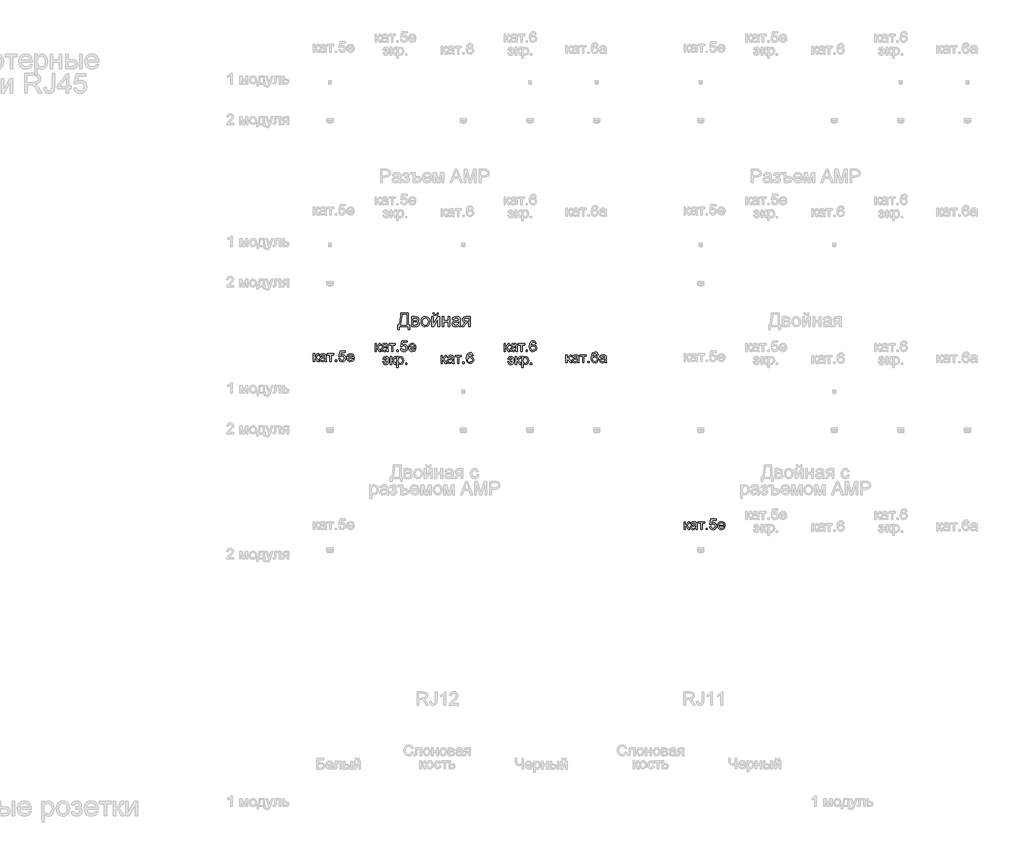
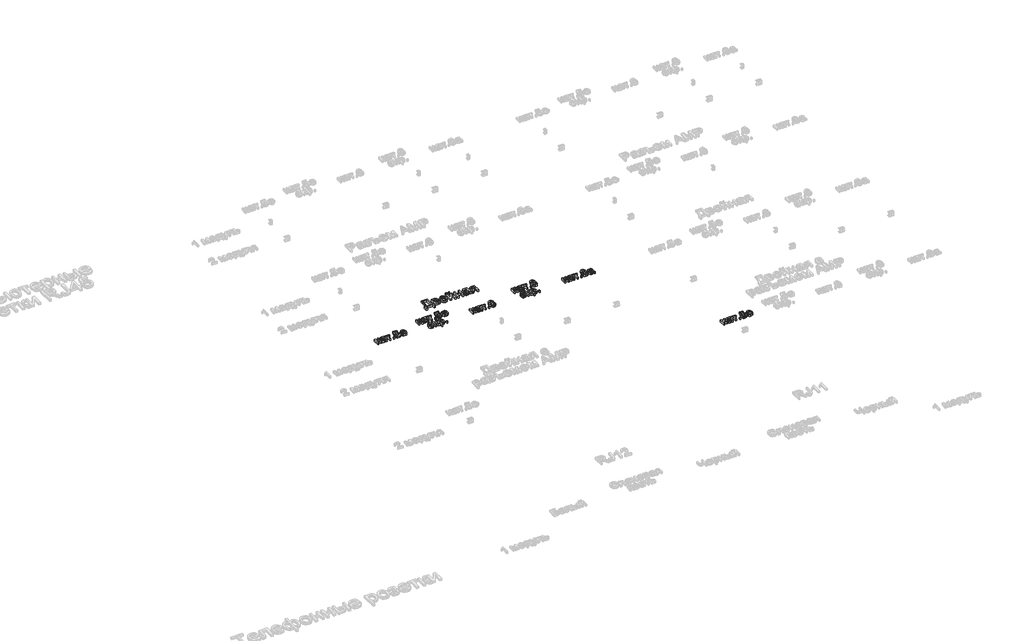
# One storey, part 24 of 47: 7 proxies.
"""IFC4 building model written with IfcOpenShell, lengths in millimetres."""

from ifc_helpers import new_model, si_unit, origin, origin_with_axes, place, context, project, spatial, polyline, outline, extrude, element, save

model = new_model("IFC4")

# Units and contexts
model_context = context("Model", 3, world=origin())
ifc_project = project(units=[si_unit("LENGTHUNIT", "METRE", prefix="MILLI")], contexts=[model_context])

# Site, building, storey
site = spatial("IfcSite", under=ifc_project)
building = spatial("IfcBuilding", under=site)
storey = spatial("IfcBuildingStorey", under=building, Name="Этаж 01", Elevation=0.0)

# Proxies
placement = place(None, origin())
element("IfcBuildingElementProxy", 1, Name="100 мм Arial", ObjectType="100 мм Arial", at=placement, inside=storey, context=model_context, shape_type="SweptSolid", body=[
    extrude(outline(polyline([(534.2901237, -22050.4463281), (593.9360579, -22050.4463281), (593.9360579, -22138.3455994), (603.353837, -22138.3455994), (603.353837, -22174.4470859), (590.7967982, -22174.4470859), (590.7967982, -22150.9026382), (526.4419745, -22150.9026382), (526.4419745, -22174.4470859), (513.8849357, -22174.4470859), (513.8849357, -22138.3455994), (521.733085, -22138.3455994), (531.150864, -22110.9322594), (534.2901237, -22064.9899296), (534.2901237, -22050.4463281)]), holes=[polyline([(581.3790191, -22063.0033668), (546.8471625, -22063.0033668), (546.8471625, -22068.0556129), (544.296514, -22102.4648422), (540.5195922, -22122.348864), (534.2901237, -22138.3455994), (581.3790191, -22138.3455994), (581.3790191, -22063.0033668)])]), origin_with_axes(), (0.0, 0.0, 1.0), 20.0),
    extrude(outline(polyline([(617.4805056, -22077.1300355), (645.1452316, -22077.1300355), (660.3142326, -22078.8100299), (668.8490948, -22084.9659219), (672.4175502, -22095.6958135), (670.2593092, -22104.4146168), (663.7600606, -22110.6318225), (672.196821, -22117.4376394), (675.5568099, -22129.2711769), (673.4292257, -22138.8422401), (668.3708482, -22145.580612), (660.3632835, -22149.5721317), (649.3881373, -22150.9026382), (617.4805056, -22150.9026382), (617.4805056, -22077.1300355)]), holes=[polyline([(630.0375444, -22105.3833727), (642.4474303, -22105.3833727), (652.6868125, -22104.7457106), (657.6654822, -22102.1950621), (659.8605114, -22097.5842744), (656.0100132, -22091.4283823), (642.8398378, -22089.6870742), (630.0375444, -22089.6870742), (630.0375444, -22105.3833727)]), polyline([(630.0375444, -22138.3455994), (645.4395372, -22138.3455994), (659.100222, -22136.0769938), (662.9997711, -22128.2411073), (660.8537928, -22122.1955799), (655.2619865, -22118.6761754), (644.2132639, -22117.9404114), (630.0375444, -22117.9404114), (630.0375444, -22138.3455994)])]), origin_with_axes(), (0.0, 0.0, 1.0), 20.0),
    extrude(outline(polyline([(688.1138487, -22114.0163368), (690.8300441, -22096.2292424), (698.9786302, -22083.7273859), (709.0463342, -22077.6021507), (721.1006009, -22075.5604056), (734.2922361, -22078.0466748), (744.8289896, -22085.5054822), (751.735974, -22097.3482168), (754.0383022, -22112.9862672), (749.9670748, -22135.3289671), (738.1090118, -22147.971845), (721.1006009, -22152.4722681), (707.7495501, -22149.995196), (697.2250594, -22142.5639797), (690.3916513, -22130.4729248), (688.1138487, -22114.0163368)]), holes=[polyline([(700.6708874, -22113.9918114), (702.1240213, -22125.3562993), (706.4834229, -22133.4527689), (713.0439852, -22138.2996142), (721.1006009, -22139.9152293), (729.1204284, -22138.2904171), (735.6687279, -22133.4159807), (740.0281295, -22125.2122122), (741.4812634, -22113.5994039), (740.0189325, -22102.5660097), (735.6319397, -22094.5799048), (729.0744431, -22089.7330595), (721.1006009, -22088.1174444), (713.0439852, -22089.7269281), (706.4834229, -22094.5553793), (702.1240213, -22102.6334548), (700.6708874, -22113.9918114)])]), origin_with_axes(), (0.0, 0.0, 1.0), 20.0),
    extrude(outline(polyline([(768.1649708, -22077.1300355), (780.7220096, -22077.1300355), (780.7220096, -22133.3914552), (811.5750462, -22077.1300355), (827.810905, -22077.1300355), (827.810905, -22150.9026382), (815.2538662, -22150.9026382), (815.2538662, -22094.984575), (784.5970333, -22150.9026382), (768.1649708, -22150.9026382), (768.1649708, -22077.1300355)])), origin_with_axes(), (0.0, 0.0, 1.0), 20.0),
    extrude(outline(polyline([(808.9753468, -22050.4463281), (818.3931259, -22050.4463281), (812.2985475, -22064.4135812), (798.7727528, -22069.2818862), (784.1310494, -22064.4503694), (777.5827499, -22050.4463281), (787.000529, -22050.4463281), (790.5321961, -22057.5219251), (797.6445814, -22059.8641071), (805.4436797, -22057.5955015), (808.9753468, -22050.4463281)])), origin_with_axes(), (0.0, 0.0, 1.0), 20.0),
    extrude(outline(polyline([(846.6464631, -22077.1300355), (859.2035019, -22077.1300355), (859.2035019, -22105.3833727), (892.1657286, -22105.3833727), (892.1657286, -22077.1300355), (904.7227674, -22077.1300355), (904.7227674, -22150.9026382), (892.1657286, -22150.9026382), (892.1657286, -22117.9404114), (859.2035019, -22117.9404114), (859.2035019, -22150.9026382), (846.6464631, -22150.9026382), (846.6464631, -22077.1300355)])), origin_with_axes(), (0.0, 0.0, 1.0), 20.0),
    extrude(outline(polyline([(970.647221, -22141.4848591), (958.4703269, -22149.995196), (945.0181086, -22152.4722681), (934.5242747, -22150.982346), (926.7834244, -22146.5125797), (922.0101555, -22139.7251569), (920.4190659, -22131.2822651), (922.8225616, -22121.3494513), (929.1378692, -22114.1389642), (937.9302488, -22110.0186858), (948.7950304, -22108.1302249), (970.5736446, -22103.8137428), (970.647221, -22101.0178397), (967.1891302, -22091.7472134), (953.3077162, -22088.1174444), (940.6035247, -22090.5332028), (934.5457345, -22099.1048533), (921.9886957, -22097.5352234), (927.4210865, -22085.2724903), (938.3594445, -22078.0865286), (954.926397, -22075.5604056), (970.1444489, -22077.792223), (978.7406248, -22083.3962921), (982.5911231, -22091.9188917), (983.2042597, -22102.9063006), (983.2042597, -22118.5290226), (983.8419218, -22140.344425), (986.3435194, -22150.9026382), (973.7864806, -22150.9026382), (970.647221, -22141.4848591)]), holes=[polyline([(970.647221, -22116.3707816), (950.3891858, -22120.2212798), (939.5857178, -22122.2568935), (934.6928873, -22125.5678315), (932.9761046, -22130.3993484), (936.7162383, -22137.1929025), (947.6913845, -22139.9152293), (960.395576, -22136.9108597), (968.5870818, -22129.6390589), (970.5736446, -22119.9269742), (970.647221, -22116.3707816)])]), origin_with_axes(), (0.0, 0.0, 1.0), 20.0),
    extrude(outline(polyline([(1056.9768625, -22077.1300355), (1056.9768625, -22150.9026382), (1044.4198237, -22150.9026382), (1044.4198237, -22122.649301), (1037.5772186, -22122.649301), (1028.2575414, -22124.2434563), (1019.5019499, -22134.9610851), (1009.4955596, -22150.9026382), (994.9764836, -22150.9026382), (1007.5825733, -22130.7427049), (1018.2756766, -22120.2948562), (1009.6917634, -22117.6645), (1003.6584987, -22112.6674362), (998.9005582, -22098.4426657), (1000.5253703, -22089.8464898), (1005.3998068, -22083.0406728), (1013.3521892, -22078.6076948), (1024.2108394, -22077.1300355), (1056.9768625, -22077.1300355)]), holes=[polyline([(1044.4198237, -22089.6870742), (1027.8651339, -22089.6870742), (1014.4619666, -22092.593342), (1011.4575969, -22099.3991589), (1015.8844436, -22107.5048255), (1031.5684794, -22110.0922622), (1044.4198237, -22110.0922622), (1044.4198237, -22089.6870742)])]), origin_with_axes(), (0.0, 0.0, 1.0), 20.0),
])
element("IfcBuildingElementProxy", 2, Name="80 мм Arial", ObjectType="80 мм Arial", at=placement, inside=storey, context=model_context, shape_type="SweptSolid", body=[
    extrude(outline(polyline([(-119.3935865, -22354.963684), (-109.3479555, -22354.963684), (-109.3479555, -22380.0777615), (-102.6181676, -22378.2726872), (-97.1048427, -22367.7561672), (-92.5234856, -22358.6817447), (-88.4816888, -22355.7288785), (-81.133859, -22354.963684), (-79.2110625, -22354.963684), (-79.2110625, -22365.0681761), (-81.918674, -22365.009315), (-86.8237672, -22366.0688151), (-90.2769529, -22372.6808809), (-94.3285599, -22379.8325069), (-100.0086579, -22383.3347434), (-93.6712774, -22387.2441028), (-87.4516192, -22395.4797544), (-76.6996547, -22413.9817662), (-88.1187119, -22413.9817662), (-98.6548522, -22395.8721618), (-103.9523529, -22388.2104062), (-109.3479555, -22386.3562809), (-109.3479555, -22413.9817662), (-119.3935865, -22413.9817662), (-119.3935865, -22354.963684)])), origin_with_axes(), (0.0, 0.0, 1.0), 20.0),
    extrude(outline(polyline([(-32.750019, -22406.4475429), (-42.4915343, -22413.2558124), (-53.2533089, -22415.2374701), (-67.8410563, -22410.4697194), (-72.9325431, -22398.2854677), (-71.0097465, -22390.3392166), (-65.9575005, -22384.570827), (-58.9235967, -22381.2746043), (-50.2317715, -22379.7638355), (-32.8088802, -22376.3106499), (-32.750019, -22374.0739274), (-35.5164916, -22366.6574263), (-46.6216228, -22363.7536111), (-56.7849761, -22365.6862179), (-61.6312082, -22372.5435383), (-71.6768392, -22371.2878344), (-67.3309266, -22361.4776478), (-58.5802402, -22355.7288785), (-45.3266782, -22353.7079801), (-33.1522367, -22355.4934341), (-26.2752959, -22359.9766893), (-23.1948974, -22366.7947689), (-22.704388, -22375.5846961), (-22.704388, -22388.0828737), (-22.1942583, -22405.5351956), (-20.1929803, -22413.9817662), (-30.2386113, -22413.9817662), (-32.750019, -22406.4475429)]), holes=[polyline([(-32.750019, -22386.3562809), (-48.9564472, -22389.4366795), (-57.5992215, -22391.0651704), (-61.513486, -22393.7139208), (-62.8869121, -22397.5791343), (-59.8948052, -22403.0139776), (-51.1146882, -22405.1918391), (-40.951335, -22402.7883434), (-34.3981304, -22396.9709027), (-32.8088802, -22389.201235), (-32.750019, -22386.3562809)])]), origin_with_axes(), (0.0, 0.0, 1.0), 20.0),
    extrude(outline(polyline([(-13.9144609, -22354.963684), (33.8022864, -22354.963684), (33.8022864, -22365.009315), (14.9667283, -22365.009315), (14.9667283, -22413.9817662), (4.9210973, -22413.9817662), (4.9210973, -22365.009315), (-13.9144609, -22365.009315), (-13.9144609, -22354.963684)])), origin_with_axes(), (0.0, 0.0, 1.0), 20.0),
    extrude(outline(polyline([(45.1036213, -22413.9817662), (45.1036213, -22403.9361352), (55.1492523, -22403.9361352), (55.1492523, -22413.9817662), (45.1036213, -22413.9817662)])), origin_with_axes(), (0.0, 0.0, 1.0), 20.0),
    extrude(outline(polyline([(71.4734027, -22392.6348003), (81.5190338, -22391.3790964), (86.58109, -22401.7288432), (97.0779896, -22405.1918391), (109.6742691, -22400.3750375), (114.1673346, -22387.5923644), (109.9587645, -22375.6631776), (97.2349526, -22371.2878344), (88.4155949, -22373.0340476), (82.7747376, -22377.5663538), (72.7291066, -22376.3106499), (81.5190338, -22334.872422), (120.4458539, -22334.872422), (120.4458539, -22344.918053), (89.6418682, -22344.918053), (85.3450065, -22367.0498338), (100.0406659, -22361.2422034), (109.4265619, -22363.0423726), (117.2183026, -22368.4428803), (122.4642998, -22376.6736268), (124.2129656, -22386.9645125), (122.6384306, -22397.0101435), (117.9148258, -22405.6038669), (108.8698338, -22412.8290693), (97.0387489, -22415.2374701), (87.1721537, -22413.6899131), (79.3117418, -22409.0472424), (73.9234968, -22401.849018), (71.4734027, -22392.6348003)])), origin_with_axes(), (0.0, 0.0, 1.0), 20.0),
    extrude(outline(polyline([(176.8348062, -22396.4019119), (186.6842334, -22397.6576158), (177.4724683, -22410.6266824), (160.314452, -22415.2374701), (148.5275129, -22413.2484548), (139.4579954, -22407.2814088), (133.6748905, -22397.7238346), (131.7471888, -22384.9632344), (133.6945109, -22371.7734386), (139.5364769, -22361.9092961), (148.4833671, -22355.7583091), (159.7454612, -22353.7079801), (170.6568412, -22355.753404), (179.3756445, -22361.8896757), (185.0925307, -22371.7341979), (186.9981594, -22384.9043733), (186.9392983, -22387.6119848), (141.7928198, -22387.6119848), (147.5710197, -22400.6595329), (160.5106558, -22405.1918391), (170.360083, -22403.0924591), (176.8348062, -22396.4019119)]), holes=[polyline([(141.7928198, -22377.5663538), (176.9525284, -22377.5663538), (172.9303519, -22368.4625007), (159.7062205, -22363.7536111), (147.3355752, -22367.5109126), (141.7928198, -22377.5663538)])]), origin_with_axes(), (0.0, 0.0, 1.0), 20.0),
])
element("IfcBuildingElementProxy", 3, Name="80 мм Arial", ObjectType="80 мм Arial", at=placement, inside=storey, context=model_context, shape_type="SweptSolid", body=[
    extrude(outline(polyline([(343.2827356, -22278.8197599), (353.3283666, -22278.8197599), (353.3283666, -22303.9338374), (360.0581546, -22302.1287631), (365.5714794, -22291.6122431), (370.1528365, -22282.5378206), (374.1946334, -22279.5849544), (381.5424631, -22278.8197599), (383.4652597, -22278.8197599), (383.4652597, -22288.924252), (380.7576482, -22288.8653909), (375.8525549, -22289.924891), (372.3993693, -22296.5369568), (368.3477622, -22303.6885828), (362.6676642, -22307.1908193), (369.0050447, -22311.1001787), (375.224703, -22319.3358303), (385.9766674, -22337.8378421), (374.5576103, -22337.8378421), (364.02147, -22319.7282377), (358.7239692, -22312.0664821), (353.3283666, -22310.2123568), (353.3283666, -22337.8378421), (343.2827356, -22337.8378421), (343.2827356, -22278.8197599)])), origin_with_axes(), (0.0, 0.0, 1.0), 20.0),
    extrude(outline(polyline([(429.9263031, -22330.3036188), (420.1847879, -22337.1118883), (409.4230133, -22339.093546), (394.8352659, -22334.3257953), (389.7437791, -22322.1415436), (391.6665756, -22314.1952925), (396.7188217, -22308.4269029), (403.7527254, -22305.1306802), (412.4445507, -22303.6199114), (429.867442, -22300.1667258), (429.9263031, -22297.9300033), (427.1598305, -22290.5135022), (416.0546994, -22287.609687), (405.8913461, -22289.5422938), (401.045114, -22296.3996142), (390.9994829, -22295.1439103), (395.3453956, -22285.3337237), (404.096082, -22279.5849544), (417.349644, -22277.564056), (429.5240855, -22279.34951), (436.4010262, -22283.8327652), (439.4814248, -22290.6508448), (439.9719341, -22299.440772), (439.9719341, -22311.9389496), (440.4820638, -22329.3912715), (442.4833419, -22337.8378421), (432.4377109, -22337.8378421), (429.9263031, -22330.3036188)]), holes=[polyline([(429.9263031, -22310.2123568), (413.719875, -22313.2927554), (405.0771006, -22314.9212463), (401.1628362, -22317.5699967), (399.7894101, -22321.4352102), (402.781517, -22326.8700535), (411.5616339, -22329.047915), (421.7249872, -22326.6444193), (428.2781918, -22320.8269786), (429.867442, -22313.0573109), (429.9263031, -22310.2123568)])]), origin_with_axes(), (0.0, 0.0, 1.0), 20.0),
    extrude(outline(polyline([(448.7618613, -22278.8197599), (496.4786086, -22278.8197599), (496.4786086, -22288.8653909), (477.6430504, -22288.8653909), (477.6430504, -22337.8378421), (467.5974194, -22337.8378421), (467.5974194, -22288.8653909), (448.7618613, -22288.8653909), (448.7618613, -22278.8197599)])), origin_with_axes(), (0.0, 0.0, 1.0), 20.0),
    extrude(outline(polyline([(507.7799435, -22337.8378421), (507.7799435, -22327.7922111), (517.8255745, -22327.7922111), (517.8255745, -22337.8378421), (507.7799435, -22337.8378421)])), origin_with_axes(), (0.0, 0.0, 1.0), 20.0),
    extrude(outline(polyline([(534.1497249, -22316.4908762), (544.1953559, -22315.2351723), (549.2574122, -22325.5849191), (559.7543118, -22329.047915), (572.3505913, -22324.2311134), (576.8436567, -22311.4484403), (572.6350867, -22299.5192535), (559.9112748, -22295.1439103), (551.0919171, -22296.8901235), (545.4510598, -22301.4224297), (535.4054288, -22300.1667258), (544.1953559, -22258.7284978), (583.1221761, -22258.7284978), (583.1221761, -22268.7741289), (552.3181904, -22268.7741289), (548.0213287, -22290.9059097), (562.7169881, -22285.0982793), (572.1028841, -22286.8984485), (579.8946247, -22292.2989562), (585.140622, -22300.5297027), (586.8892877, -22310.8205884), (585.3147528, -22320.8662194), (580.591148, -22329.4599428), (571.546156, -22336.6851452), (559.715071, -22339.093546), (549.8484759, -22337.545989), (541.9880639, -22332.9033183), (536.599819, -22325.7050939), (534.1497249, -22316.4908762)])), origin_with_axes(), (0.0, 0.0, 1.0), 20.0),
    extrude(outline(polyline([(639.5111283, -22320.2579878), (649.3605556, -22321.5136917), (640.1487904, -22334.4827583), (622.9907742, -22339.093546), (611.2038351, -22337.1045306), (602.1343176, -22331.1374847), (596.3512126, -22321.5799105), (594.423511, -22308.8193103), (596.370833, -22295.6295145), (602.2127991, -22285.7653719), (611.1596892, -22279.614385), (622.4217834, -22277.564056), (633.3331634, -22279.6094799), (642.0519666, -22285.7457516), (647.7688528, -22295.5902738), (649.6744816, -22308.7604492), (649.6156205, -22311.4680607), (604.469142, -22311.4680607), (610.2473419, -22324.5156088), (623.1869779, -22329.047915), (633.0364052, -22326.948535), (639.5111283, -22320.2579878)]), holes=[polyline([(604.469142, -22301.4224297), (639.6288506, -22301.4224297), (635.6066741, -22292.3185766), (622.3825426, -22287.609687), (610.0118974, -22291.3669885), (604.469142, -22301.4224297)])]), origin_with_axes(), (0.0, 0.0, 1.0), 20.0),
    extrude(outline(polyline([(418.6249682, -22399.0022839), (437.4605264, -22399.0022839), (432.91841, -22389.0253242), (423.3730985, -22385.1895413), (415.2306437, -22387.700949), (411.090745, -22395.2351723), (401.045114, -22393.9794684), (407.9416751, -22380.4119804), (422.764867, -22375.1439103), (433.0189644, -22377.1942393), (440.8646611, -22383.3452262), (445.8457833, -22393.0867415), (447.5061574, -22405.9086553), (446.1351838, -22418.6717079), (441.3944112, -22428.7075288), (433.6468164, -22435.0350991), (423.2553763, -22436.6734002), (414.3477269, -22435.2043248), (407.3236333, -22430.7970985), (399.7894101, -22415.3264343), (409.8350411, -22414.0707305), (414.1613334, -22423.4885095), (423.0984133, -22426.6277692), (433.0459424, -22422.2328057), (437.4605264, -22409.047915), (418.6249682, -22409.047915), (418.6249682, -22399.0022839)])), origin_with_axes(), (0.0, 0.0, 1.0), 20.0),
    extrude(outline(polyline([(458.8074923, -22376.3996142), (468.8531233, -22376.3996142), (468.8531233, -22401.5136917), (475.5829113, -22399.7086174), (481.0962361, -22389.1920974), (485.6775932, -22380.1176749), (489.7193901, -22377.1648087), (497.0672198, -22376.3996142), (498.9900164, -22376.3996142), (498.9900164, -22386.5041063), (496.2824049, -22386.4452452), (491.3773116, -22387.5047453), (487.9241259, -22394.116811), (483.8725189, -22401.268437), (478.1924209, -22404.7706736), (484.5298014, -22408.680033), (490.7494597, -22416.9156846), (501.5014241, -22435.4176964), (490.082367, -22435.4176964), (479.5462266, -22417.308092), (474.2487259, -22409.6463363), (468.8531233, -22407.7922111), (468.8531233, -22435.4176964), (458.8074923, -22435.4176964), (458.8074923, -22376.3996142)])), origin_with_axes(), (0.0, 0.0, 1.0), 20.0),
    extrude(outline(polyline([(507.7799435, -22458.0203662), (507.7799435, -22376.3996142), (517.8255745, -22376.3996142), (517.8255745, -22386.2490414), (524.7711866, -22377.9201931), (534.1497249, -22375.1439103), (546.883347, -22379.0287441), (555.2023852, -22389.9769123), (558.0080986, -22405.4573867), (554.8394083, -22421.7324861), (545.6374533, -22432.8179969), (532.9332618, -22436.6734002), (524.1923856, -22434.0933212), (517.8255745, -22427.5695471), (517.8255745, -22458.0203662), (507.7799435, -22458.0203662)]), holes=[polyline([(517.8255745, -22406.3795442), (522.1714871, -22421.6834352), (532.7174377, -22426.6277692), (543.4792123, -22421.5068519), (547.9624676, -22405.63397), (543.5871244, -22390.2908383), (533.1294655, -22385.1895413), (522.4657927, -22390.6145744), (517.8255745, -22406.3795442)])]), origin_with_axes(), (0.0, 0.0, 1.0), 20.0),
    extrude(outline(polyline([(571.8208412, -22435.4176964), (571.8208412, -22425.3720654), (581.8664722, -22425.3720654), (581.8664722, -22435.4176964), (571.8208412, -22435.4176964)])), origin_with_axes(), (0.0, 0.0, 1.0), 20.0),
])
element("IfcBuildingElementProxy", 4, Name="80 мм Arial", ObjectType="80 мм Arial", at=placement, inside=storey, context=model_context, shape_type="SweptSolid", body=[
    extrude(outline(polyline([(837.8748928, -22367.654338), (847.9205238, -22367.654338), (847.9205238, -22392.7684155), (854.6503118, -22390.9633412), (860.1636366, -22380.4468212), (864.7449937, -22371.3723987), (868.7867906, -22368.4195325), (876.1346203, -22367.654338), (878.0574169, -22367.654338), (878.0574169, -22377.7588301), (875.3498054, -22377.699969), (870.4447121, -22378.7594692), (866.9915264, -22385.3715349), (862.9399194, -22392.5231609), (857.2598214, -22396.0253975), (863.5972019, -22399.9347568), (869.8168602, -22408.1704084), (880.5688246, -22426.6724202), (869.1497675, -22426.6724202), (858.6136271, -22408.5628159), (853.3161264, -22400.9010602), (847.9205238, -22399.0469349), (847.9205238, -22426.6724202), (837.8748928, -22426.6724202), (837.8748928, -22367.654338)])), origin_with_axes(), (0.0, 0.0, 1.0), 20.0),
    extrude(outline(polyline([(924.5184603, -22419.1381969), (914.7769451, -22425.9464664), (904.0151704, -22427.9281241), (889.4274231, -22423.1603734), (884.3359362, -22410.9761218), (886.2587328, -22403.0298707), (891.3109789, -22397.261481), (898.3448826, -22393.9652583), (907.0367079, -22392.4544896), (924.4595992, -22389.0013039), (924.5184603, -22386.7645814), (921.7519877, -22379.3480804), (910.6468565, -22376.4442651), (900.4835033, -22378.3768719), (895.6372711, -22385.2341923), (885.5916401, -22383.9784884), (889.9375528, -22374.1683019), (898.6882391, -22368.4195325), (911.9418012, -22366.3986341), (924.1162427, -22368.1840881), (930.9931834, -22372.6673433), (934.073582, -22379.485423), (934.5640913, -22388.2753501), (934.5640913, -22400.7735278), (935.074221, -22418.2258496), (937.0754991, -22426.6724202), (927.0298681, -22426.6724202), (924.5184603, -22419.1381969)]), holes=[polyline([(924.5184603, -22399.0469349), (908.3120321, -22402.1273335), (899.6692578, -22403.7558245), (895.7549934, -22406.4045748), (894.3815673, -22410.2697883), (897.3736742, -22415.7046317), (906.1537911, -22417.8824931), (916.3171444, -22415.4789974), (922.870349, -22409.6615568), (924.4595992, -22401.891889), (924.5184603, -22399.0469349)])]), origin_with_axes(), (0.0, 0.0, 1.0), 20.0),
    extrude(outline(polyline([(943.3540185, -22367.654338), (991.0707658, -22367.654338), (991.0707658, -22377.699969), (972.2352076, -22377.699969), (972.2352076, -22426.6724202), (962.1895766, -22426.6724202), (962.1895766, -22377.699969), (943.3540185, -22377.699969), (943.3540185, -22367.654338)])), origin_with_axes(), (0.0, 0.0, 1.0), 20.0),
    extrude(outline(polyline([(1002.3721007, -22426.6724202), (1002.3721007, -22416.6267892), (1012.4177317, -22416.6267892), (1012.4177317, -22426.6724202), (1002.3721007, -22426.6724202)])), origin_with_axes(), (0.0, 0.0, 1.0), 20.0),
    extrude(outline(polyline([(1080.225741, -22367.654338), (1070.18011, -22368.9100419), (1066.3737576, -22360.5321426), (1056.3085063, -22356.3530031), (1047.2438939, -22358.7859294), (1040.3865735, -22367.919213), (1037.5318092, -22385.8228035), (1046.3904077, -22377.8078811), (1057.3680064, -22375.1885613), (1066.6484429, -22376.9789203), (1074.437731, -22382.3499974), (1079.7205164, -22390.5562185), (1081.4814449, -22400.8520092), (1078.1656019, -22414.7138028), (1069.0421284, -22424.5239894), (1055.876858, -22427.9281241), (1044.4798738, -22425.6717812), (1035.4029987, -22418.9027525), (1029.4653833, -22406.9539453), (1027.4861782, -22389.1582669), (1029.68366, -22369.1503914), (1036.2761053, -22355.4700863), (1045.2769515, -22348.5980506), (1056.9363582, -22346.3073721), (1065.7508108, -22347.724944), (1072.80924, -22351.9776599), (1080.225741, -22367.654338)]), holes=[polyline([(1037.5318092, -22400.6950463), (1039.8568234, -22409.3966817), (1046.0372409, -22415.7144418), (1055.0920431, -22417.8824931), (1066.9329383, -22413.3894276), (1071.4358139, -22401.1855556), (1066.9917994, -22389.5016234), (1054.6800153, -22385.2341923), (1042.5251942, -22389.5016234), (1037.5318092, -22400.6950463)])]), origin_with_axes(), (0.0, 0.0, 1.0), 20.0),
])
element("IfcBuildingElementProxy", 5, Name="80 мм Arial", ObjectType="80 мм Arial", at=placement, inside=storey, context=model_context, shape_type="SweptSolid", body=[
    extrude(outline(polyline([(1310.9396889, -22278.8197599), (1320.9853199, -22278.8197599), (1320.9853199, -22303.9338374), (1327.7151079, -22302.1287631), (1333.2284327, -22291.6122431), (1337.8097899, -22282.5378206), (1341.8515867, -22279.5849544), (1349.1994164, -22278.8197599), (1351.122213, -22278.8197599), (1351.122213, -22288.924252), (1348.4146015, -22288.8653909), (1343.5095082, -22289.924891), (1340.0563226, -22296.5369568), (1336.0047155, -22303.6885828), (1330.3246175, -22307.1908193), (1336.661998, -22311.1001787), (1342.8816563, -22319.3358303), (1353.6336207, -22337.8378421), (1342.2145636, -22337.8378421), (1331.6784233, -22319.7282377), (1326.3809225, -22312.0664821), (1320.9853199, -22310.2123568), (1320.9853199, -22337.8378421), (1310.9396889, -22337.8378421), (1310.9396889, -22278.8197599)])), origin_with_axes(), (0.0, 0.0, 1.0), 20.0),
    extrude(outline(polyline([(1397.5832564, -22330.3036188), (1387.8417412, -22337.1118883), (1377.0799666, -22339.093546), (1362.4922192, -22334.3257953), (1357.4007324, -22322.1415436), (1359.3235289, -22314.1952925), (1364.375775, -22308.4269029), (1371.4096787, -22305.1306802), (1380.101504, -22303.6199114), (1397.5243953, -22300.1667258), (1397.5832564, -22297.9300033), (1394.8167838, -22290.5135022), (1383.7116527, -22287.609687), (1373.5482994, -22289.5422938), (1368.7020673, -22296.3996142), (1358.6564362, -22295.1439103), (1363.0023489, -22285.3337237), (1371.7530353, -22279.5849544), (1385.0065973, -22277.564056), (1397.1810388, -22279.34951), (1404.0579795, -22283.8327652), (1407.1383781, -22290.6508448), (1407.6288874, -22299.440772), (1407.6288874, -22311.9389496), (1408.1390171, -22329.3912715), (1410.1402952, -22337.8378421), (1400.0946642, -22337.8378421), (1397.5832564, -22330.3036188)]), holes=[polyline([(1397.5832564, -22310.2123568), (1381.3768283, -22313.2927554), (1372.7340539, -22314.9212463), (1368.8197895, -22317.5699967), (1367.4463634, -22321.4352102), (1370.4384703, -22326.8700535), (1379.2185872, -22329.047915), (1389.3819405, -22326.6444193), (1395.9351451, -22320.8269786), (1397.5243953, -22313.0573109), (1397.5832564, -22310.2123568)])]), origin_with_axes(), (0.0, 0.0, 1.0), 20.0),
    extrude(outline(polyline([(1416.4188146, -22278.8197599), (1464.1355619, -22278.8197599), (1464.1355619, -22288.8653909), (1445.3000037, -22288.8653909), (1445.3000037, -22337.8378421), (1435.2543727, -22337.8378421), (1435.2543727, -22288.8653909), (1416.4188146, -22288.8653909), (1416.4188146, -22278.8197599)])), origin_with_axes(), (0.0, 0.0, 1.0), 20.0),
    extrude(outline(polyline([(1475.4368968, -22337.8378421), (1475.4368968, -22327.7922111), (1485.4825278, -22327.7922111), (1485.4825278, -22337.8378421), (1475.4368968, -22337.8378421)])), origin_with_axes(), (0.0, 0.0, 1.0), 20.0),
    extrude(outline(polyline([(1553.2905372, -22278.8197599), (1543.2449061, -22280.0754638), (1539.4385538, -22271.6975645), (1529.3733024, -22267.518425), (1520.30869, -22269.9513512), (1513.4513696, -22279.0846349), (1510.5966053, -22296.9882253), (1519.4552038, -22288.9733029), (1530.4328025, -22286.3539831), (1539.713239, -22288.1443422), (1547.5025271, -22293.5154193), (1552.7853126, -22301.7216404), (1554.546241, -22312.0174311), (1551.230398, -22325.8792247), (1542.1069245, -22335.6894112), (1528.9416542, -22339.093546), (1517.54467, -22336.8372031), (1508.4677949, -22330.0681744), (1502.5301795, -22318.1193672), (1500.5509743, -22300.3236888), (1502.7484561, -22280.3158133), (1509.3409015, -22266.6355082), (1518.3417476, -22259.7634725), (1530.0011543, -22257.472794), (1538.8156069, -22258.8903659), (1545.8740361, -22263.1430818), (1553.2905372, -22278.8197599)]), holes=[polyline([(1510.5966053, -22311.8604681), (1512.9216196, -22320.5621036), (1519.1020371, -22326.8798637), (1528.1568392, -22329.047915), (1539.9977344, -22324.5548495), (1544.50061, -22312.3509775), (1540.0565955, -22300.6670453), (1527.7448114, -22296.3996142), (1515.5899903, -22300.6670453), (1510.5966053, -22311.8604681)])]), origin_with_axes(), (0.0, 0.0, 1.0), 20.0),
    extrude(outline(polyline([(1355.5171766, -22399.0022839), (1374.3527347, -22399.0022839), (1369.8106183, -22389.0253242), (1360.2653068, -22385.1895413), (1352.122852, -22387.700949), (1347.9829533, -22395.2351723), (1337.9373223, -22393.9794684), (1344.8338834, -22380.4119804), (1359.6570753, -22375.1439103), (1369.9111727, -22377.1942393), (1377.7568694, -22383.3452262), (1382.7379916, -22393.0867415), (1384.3983657, -22405.9086553), (1383.0273922, -22418.6717079), (1378.2866195, -22428.7075288), (1370.5390247, -22435.0350991), (1360.1475846, -22436.6734002), (1351.2399352, -22435.2043248), (1344.2158417, -22430.7970985), (1336.6816184, -22415.3264343), (1346.7272494, -22414.0707305), (1351.0535417, -22423.4885095), (1359.9906216, -22426.6277692), (1369.9381508, -22422.2328057), (1374.3527347, -22409.047915), (1355.5171766, -22409.047915), (1355.5171766, -22399.0022839)])), origin_with_axes(), (0.0, 0.0, 1.0), 20.0),
    extrude(outline(polyline([(1395.6997006, -22376.3996142), (1405.7453316, -22376.3996142), (1405.7453316, -22401.5136917), (1412.4751196, -22399.7086174), (1417.9884444, -22389.1920974), (1422.5698015, -22380.1176749), (1426.6115984, -22377.1648087), (1433.9594281, -22376.3996142), (1435.8822247, -22376.3996142), (1435.8822247, -22386.5041063), (1433.1746132, -22386.4452452), (1428.2695199, -22387.5047453), (1424.8163343, -22394.116811), (1420.7647272, -22401.268437), (1415.0846292, -22404.7706736), (1421.4220097, -22408.680033), (1427.641668, -22416.9156846), (1438.3936324, -22435.4176964), (1426.9745753, -22435.4176964), (1416.438435, -22417.308092), (1411.1409342, -22409.6463363), (1405.7453316, -22407.7922111), (1405.7453316, -22435.4176964), (1395.6997006, -22435.4176964), (1395.6997006, -22376.3996142)])), origin_with_axes(), (0.0, 0.0, 1.0), 20.0),
    extrude(outline(polyline([(1444.6721518, -22458.0203662), (1444.6721518, -22376.3996142), (1454.7177828, -22376.3996142), (1454.7177828, -22386.2490414), (1461.6633949, -22377.9201931), (1471.0419332, -22375.1439103), (1483.7755553, -22379.0287441), (1492.0945935, -22389.9769123), (1494.9003069, -22405.4573867), (1491.7316166, -22421.7324861), (1482.5296617, -22432.8179969), (1469.8254701, -22436.6734002), (1461.0845939, -22434.0933212), (1454.7177828, -22427.5695471), (1454.7177828, -22458.0203662), (1444.6721518, -22458.0203662)]), holes=[polyline([(1454.7177828, -22406.3795442), (1459.0636955, -22421.6834352), (1469.609646, -22426.6277692), (1480.3714206, -22421.5068519), (1484.8546759, -22405.63397), (1480.4793327, -22390.2908383), (1470.0216738, -22385.1895413), (1459.3580011, -22390.6145744), (1454.7177828, -22406.3795442)])]), origin_with_axes(), (0.0, 0.0, 1.0), 20.0),
    extrude(outline(polyline([(1508.7130495, -22435.4176964), (1508.7130495, -22425.3720654), (1518.7586805, -22425.3720654), (1518.7586805, -22435.4176964), (1508.7130495, -22435.4176964)])), origin_with_axes(), (0.0, 0.0, 1.0), 20.0),
])
element("IfcBuildingElementProxy", 6, Name="80 мм Arial", ObjectType="80 мм Arial", at=placement, inside=storey, context=model_context, shape_type="SweptSolid", body=[
    extrude(outline(polyline([(1774.3437127, -22363.42412), (1784.3893437, -22363.42412), (1784.3893437, -22388.5381975), (1791.1191317, -22386.7331232), (1796.6324565, -22376.2166032), (1801.2138137, -22367.1421807), (1805.2556105, -22364.1893145), (1812.6034402, -22363.42412), (1814.5262368, -22363.42412), (1814.5262368, -22373.5286121), (1811.8186253, -22373.469751), (1806.913532, -22374.5292512), (1803.4603464, -22381.1413169), (1799.4087393, -22388.2929429), (1793.7286413, -22391.7951795), (1800.0660218, -22395.7045388), (1806.2856801, -22403.9401904), (1817.0376445, -22422.4422022), (1805.6185874, -22422.4422022), (1795.0824471, -22404.3325979), (1789.7849463, -22396.6708422), (1784.3893437, -22394.8167169), (1784.3893437, -22422.4422022), (1774.3437127, -22422.4422022), (1774.3437127, -22363.42412)])), origin_with_axes(), (0.0, 0.0, 1.0), 20.0),
    extrude(outline(polyline([(1860.9872802, -22414.9079789), (1851.245765, -22421.7162484), (1840.4839904, -22423.6979061), (1825.896243, -22418.9301554), (1820.8047562, -22406.7459037), (1822.7275527, -22398.7996526), (1827.7797988, -22393.031263), (1834.8137026, -22389.7350403), (1843.5055278, -22388.2242716), (1860.9284191, -22384.7710859), (1860.9872802, -22382.5343634), (1858.2208076, -22375.1178623), (1847.1156765, -22372.2140471), (1836.9523232, -22374.1466539), (1832.1060911, -22381.0039743), (1822.0604601, -22379.7482704), (1826.4063727, -22369.9380839), (1835.1570591, -22364.1893145), (1848.4106211, -22362.1684161), (1860.5850626, -22363.9538701), (1867.4620034, -22368.4371253), (1870.5424019, -22375.255205), (1871.0329113, -22384.0451321), (1871.0329113, -22396.5433097), (1871.543041, -22413.9956316), (1873.544319, -22422.4422022), (1863.498688, -22422.4422022), (1860.9872802, -22414.9079789)]), holes=[polyline([(1860.9872802, -22394.8167169), (1844.7808521, -22397.8971155), (1836.1380777, -22399.5256065), (1832.2238133, -22402.1743568), (1830.8503872, -22406.0395703), (1833.8424941, -22411.4744137), (1842.622611, -22413.6522751), (1852.7859643, -22411.2487794), (1859.3391689, -22405.4313387), (1860.9284191, -22397.661671), (1860.9872802, -22394.8167169)])]), origin_with_axes(), (0.0, 0.0, 1.0), 20.0),
    extrude(outline(polyline([(1879.8228384, -22363.42412), (1927.5395857, -22363.42412), (1927.5395857, -22373.469751), (1908.7040276, -22373.469751), (1908.7040276, -22422.4422022), (1898.6583965, -22422.4422022), (1898.6583965, -22373.469751), (1879.8228384, -22373.469751), (1879.8228384, -22363.42412)])), origin_with_axes(), (0.0, 0.0, 1.0), 20.0),
    extrude(outline(polyline([(1938.8409206, -22422.4422022), (1938.8409206, -22412.3965712), (1948.8865516, -22412.3965712), (1948.8865516, -22422.4422022), (1938.8409206, -22422.4422022)])), origin_with_axes(), (0.0, 0.0, 1.0), 20.0),
    extrude(outline(polyline([(2016.694561, -22363.42412), (2006.64893, -22364.6798239), (2002.8425776, -22356.3019246), (1992.7773262, -22352.1227851), (1983.7127138, -22354.5557114), (1976.8553934, -22363.688995), (1974.0006292, -22381.5925855), (1982.8592276, -22373.5776631), (1993.8368263, -22370.9583433), (2003.1172628, -22372.7487023), (2010.9065509, -22378.1197794), (2016.1893364, -22386.3260005), (2017.9502648, -22396.6217912), (2014.6344218, -22410.4835848), (2005.5109483, -22420.2937714), (1992.345678, -22423.6979061), (1980.9486938, -22421.4415632), (1971.8718187, -22414.6725345), (1965.9342033, -22402.7237273), (1963.9549981, -22384.9280489), (1966.1524799, -22364.9201734), (1972.7449253, -22351.2398683), (1981.7457714, -22344.3678326), (1993.4051781, -22342.0771541), (2002.2196307, -22343.494726), (2009.2780599, -22347.7474419), (2016.694561, -22363.42412)]), holes=[polyline([(1974.0006292, -22396.4648283), (1976.3256434, -22405.1664637), (1982.5060609, -22411.4842238), (1991.5608631, -22413.6522751), (2003.4017582, -22409.1592096), (2007.9046338, -22396.9553376), (2003.4606193, -22385.2714054), (1991.1488352, -22381.0039743), (1978.9940141, -22385.2714054), (1974.0006292, -22396.4648283)])]), origin_with_axes(), (0.0, 0.0, 1.0), 20.0),
    extrude(outline(polyline([(2066.922716, -22414.9079789), (2057.1812008, -22421.7162484), (2046.4194262, -22423.6979061), (2031.8316788, -22418.9301554), (2026.740192, -22406.7459037), (2028.6629885, -22398.7996526), (2033.7152346, -22393.031263), (2040.7491384, -22389.7350403), (2049.4409636, -22388.2242716), (2066.8638549, -22384.7710859), (2066.922716, -22382.5343634), (2064.1562434, -22375.1178623), (2053.0511123, -22372.2140471), (2042.887759, -22374.1466539), (2038.0415269, -22381.0039743), (2027.9958959, -22379.7482704), (2032.3418085, -22369.9380839), (2041.0924949, -22364.1893145), (2054.3460569, -22362.1684161), (2066.5204984, -22363.9538701), (2073.3974392, -22368.4371253), (2076.4778377, -22375.255205), (2076.9683471, -22384.0451321), (2076.9683471, -22396.5433097), (2077.4784768, -22413.9956316), (2079.4797548, -22422.4422022), (2069.4341238, -22422.4422022), (2066.922716, -22414.9079789)]), holes=[polyline([(2066.922716, -22394.8167169), (2050.7162879, -22397.8971155), (2042.0735135, -22399.5256065), (2038.1592491, -22402.1743568), (2036.785823, -22406.0395703), (2039.7779299, -22411.4744137), (2048.5580468, -22413.6522751), (2058.7214001, -22411.2487794), (2065.2746047, -22405.4313387), (2066.8638549, -22397.661671), (2066.922716, -22394.8167169)])]), origin_with_axes(), (0.0, 0.0, 1.0), 20.0),
])
element("IfcBuildingElementProxy", 7, Name="80 мм Arial", ObjectType="80 мм Arial", at=placement, inside=storey, context=model_context, shape_type="SweptSolid", body=[
    extrude(outline(polyline([(2660.6064135, -23614.963684), (2670.6520445, -23614.963684), (2670.6520445, -23640.0777615), (2677.3818324, -23638.2726872), (2682.8951573, -23627.7561672), (2687.4765144, -23618.6817447), (2691.5183112, -23615.7288785), (2698.866141, -23614.963684), (2700.7889375, -23614.963684), (2700.7889375, -23625.0681761), (2698.081326, -23625.009315), (2693.1762328, -23626.0688151), (2689.7230471, -23632.6808809), (2685.6714401, -23639.8325069), (2679.9913421, -23643.3347434), (2686.3287226, -23647.2441028), (2692.5483808, -23655.4797544), (2703.3003453, -23673.9817662), (2691.8812881, -23673.9817662), (2681.3451478, -23655.8721618), (2676.0476471, -23648.2104062), (2670.6520445, -23646.3562809), (2670.6520445, -23673.9817662), (2660.6064135, -23673.9817662), (2660.6064135, -23614.963684)])), origin_with_axes(), (0.0, 0.0, 1.0), 20.0),
    extrude(outline(polyline([(2747.249981, -23666.4475429), (2737.5084657, -23673.2558124), (2726.7466911, -23675.2374701), (2712.1589437, -23670.4697194), (2707.0674569, -23658.2854677), (2708.9902535, -23650.3392166), (2714.0424995, -23644.570827), (2721.0764033, -23641.2746043), (2729.7682285, -23639.7638355), (2747.1911198, -23636.3106499), (2747.249981, -23634.0739274), (2744.4835084, -23626.6574263), (2733.3783772, -23623.7536111), (2723.2150239, -23625.6862179), (2718.3687918, -23632.5435383), (2708.3231608, -23631.2878344), (2712.6690734, -23621.4776478), (2721.4197598, -23615.7288785), (2734.6733218, -23613.7079801), (2746.8477633, -23615.4934341), (2753.7247041, -23619.9766893), (2756.8051026, -23626.7947689), (2757.295612, -23635.5846961), (2757.295612, -23648.0828737), (2757.8057417, -23665.5351956), (2759.8070197, -23673.9817662), (2749.7613887, -23673.9817662), (2747.249981, -23666.4475429)]), holes=[polyline([(2747.249981, -23646.3562809), (2731.0435528, -23649.4366795), (2722.4007785, -23651.0651704), (2718.486514, -23653.7139208), (2717.1130879, -23657.5791343), (2720.1051948, -23663.0139776), (2728.8853118, -23665.1918391), (2739.048665, -23662.7883434), (2745.6018696, -23656.9709027), (2747.1911198, -23649.201235), (2747.249981, -23646.3562809)])]), origin_with_axes(), (0.0, 0.0, 1.0), 20.0),
    extrude(outline(polyline([(2766.0855391, -23614.963684), (2813.8022864, -23614.963684), (2813.8022864, -23625.009315), (2794.9667283, -23625.009315), (2794.9667283, -23673.9817662), (2784.9210973, -23673.9817662), (2784.9210973, -23625.009315), (2766.0855391, -23625.009315), (2766.0855391, -23614.963684)])), origin_with_axes(), (0.0, 0.0, 1.0), 20.0),
    extrude(outline(polyline([(2825.1036213, -23673.9817662), (2825.1036213, -23663.9361352), (2835.1492523, -23663.9361352), (2835.1492523, -23673.9817662), (2825.1036213, -23673.9817662)])), origin_with_axes(), (0.0, 0.0, 1.0), 20.0),
    extrude(outline(polyline([(2851.4734027, -23652.6348003), (2861.5190338, -23651.3790964), (2866.58109, -23661.7288432), (2877.0779896, -23665.1918391), (2889.6742691, -23660.3750375), (2894.1673346, -23647.5923644), (2889.9587645, -23635.6631776), (2877.2349526, -23631.2878344), (2868.4155949, -23633.0340476), (2862.7747376, -23637.5663538), (2852.7291066, -23636.3106499), (2861.5190338, -23594.872422), (2900.4458539, -23594.872422), (2900.4458539, -23604.918053), (2869.6418682, -23604.918053), (2865.3450065, -23627.0498338), (2880.0406659, -23621.2422034), (2889.4265619, -23623.0423726), (2897.2183026, -23628.4428803), (2902.4642998, -23636.6736268), (2904.2129656, -23646.9645125), (2902.6384306, -23657.0101435), (2897.9148258, -23665.6038669), (2888.8698338, -23672.8290693), (2877.0387489, -23675.2374701), (2867.1721537, -23673.6899131), (2859.3117418, -23669.0472424), (2853.9234968, -23661.849018), (2851.4734027, -23652.6348003)])), origin_with_axes(), (0.0, 0.0, 1.0), 20.0),
    extrude(outline(polyline([(2956.8348062, -23656.4019119), (2966.6842334, -23657.6576158), (2957.4724683, -23670.6266824), (2940.314452, -23675.2374701), (2928.5275129, -23673.2484548), (2919.4579954, -23667.2814088), (2913.6748905, -23657.7238346), (2911.7471888, -23644.9632344), (2913.6945109, -23631.7734386), (2919.5364769, -23621.9092961), (2928.4833671, -23615.7583091), (2939.7454612, -23613.7079801), (2950.6568412, -23615.753404), (2959.3756445, -23621.8896757), (2965.0925307, -23631.7341979), (2966.9981594, -23644.9043733), (2966.9392983, -23647.6119848), (2921.7928198, -23647.6119848), (2927.5710197, -23660.6595329), (2940.5106558, -23665.1918391), (2950.360083, -23663.0924591), (2956.8348062, -23656.4019119)]), holes=[polyline([(2921.7928198, -23637.5663538), (2956.9525284, -23637.5663538), (2952.9303519, -23628.4625007), (2939.7062205, -23623.7536111), (2927.3355752, -23627.5109126), (2921.7928198, -23637.5663538)])]), origin_with_axes(), (0.0, 0.0, 1.0), 20.0),
])

save(model, "model.ifc")
